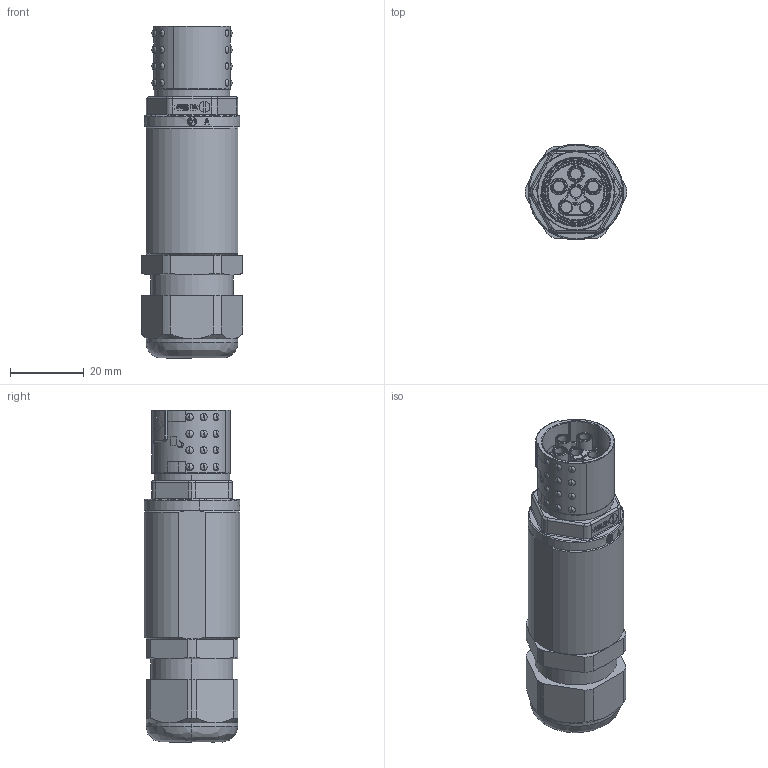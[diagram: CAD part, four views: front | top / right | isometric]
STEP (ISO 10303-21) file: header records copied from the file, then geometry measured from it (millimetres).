
FILE_DESCRIPTION (( 'STEP AP214' ), '1' );
FILE_NAME ('201810011338ES.STEP', '2022-04-14T13:06:49', ( '' ), ( '' ), 'SwSTEP 2.0', 'SolidWorks 2021', '' );
FILE_SCHEMA (( 'AUTOMOTIVE_DESIGN' ));
Length unit declared in the file: millimetre
Products named in the file (1): 201810011338ES
Bounding box: 27.6 x 26.01 x 90.26 mm (x, y, z)
Surface area: 11314.8 mm2 (no closed solid volume)
Topology: 0 solids, 8 shells, 724 faces, 1819 edges, 1183 vertices
Faces by surface type: plane 284, bspline 209, cylinder 178, torus 30, cone 23
Entity records: 38598 total; most frequent: CARTESIAN_POINT 21831, ORIENTED_EDGE 3558, DIRECTION 2756, EDGE_CURVE 1818, VERTEX_POINT 1183, AXIS2_PLACEMENT_3D 1010, EDGE_LOOP 808, VECTOR 736
